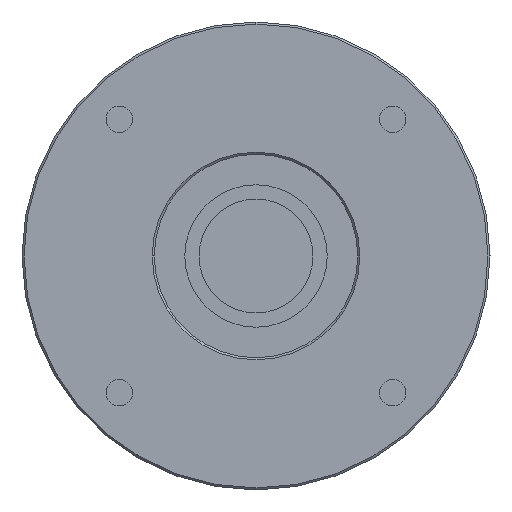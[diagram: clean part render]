
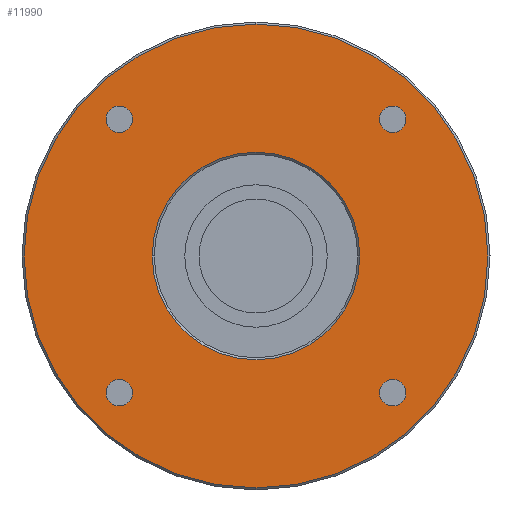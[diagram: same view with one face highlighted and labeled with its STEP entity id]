
A CAD part, left-side view. The second image highlights one B-rep face of the part: STEP entity #11990.
In plain terms, the highlighted planar face has unit normal (-1, 0, 0) as drawn and (0, 0, -1) by its records, which use the part's own axes.
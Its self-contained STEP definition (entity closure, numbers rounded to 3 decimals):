
#8800=CARTESIAN_POINT('',(-30.338,-33.588,-65.6));
#8810=VERTEX_POINT('',#8800);
#8840=CARTESIAN_POINT('',(-33.588,-33.588,-65.6));
#8850=DIRECTION('',(0.,0.,-1.));
#8860=DIRECTION('',(1.,0.,0.));
#8870=AXIS2_PLACEMENT_3D('',#8840,#8850,#8860);
#8880=CIRCLE('',#8870,3.25);
#8890=CARTESIAN_POINT('',(-36.838,-33.588,-65.6));
#8900=VERTEX_POINT('',#8890);
#8910=EDGE_CURVE('',#8900,#8810,#8880,.T.);
#9220=CARTESIAN_POINT('',(36.838,33.588,-65.6));
#9230=VERTEX_POINT('',#9220);
#9260=CARTESIAN_POINT('',(33.588,33.588,-65.6));
#9270=DIRECTION('',(0.,0.,-1.));
#9280=DIRECTION('',(1.,0.,0.));
#9290=AXIS2_PLACEMENT_3D('',#9260,#9270,#9280);
#9300=CIRCLE('',#9290,3.25);
#9310=CARTESIAN_POINT('',(30.338,33.588,-65.6));
#9320=VERTEX_POINT('',#9310);
#9330=EDGE_CURVE('',#9320,#9230,#9300,.T.);
#11060=CARTESIAN_POINT('',(0.,57.,-65.6));
#11070=VERTEX_POINT('',#11060);
#11100=CARTESIAN_POINT('',(0.,0.,
-65.6));
#11110=DIRECTION('',(0.,0.,-1.));
#11120=DIRECTION('',(1.,0.,0.));
#11130=AXIS2_PLACEMENT_3D('',#11100,#11110,#11120);
#11140=CIRCLE('',#11130,57.);
#11150=CARTESIAN_POINT('',(57.,0.,-65.6));
#11160=VERTEX_POINT('',#11150);
#11170=EDGE_CURVE('',#11070,#11160,#11140,.T.);
#11190=CARTESIAN_POINT('',(0.,-57.,-65.6));
#11200=VERTEX_POINT('',#11190);
#11210=EDGE_CURVE('',#11160,#11200,#11140,.T.);
#11330=CARTESIAN_POINT('',(0.,0.,
-65.6));
#11340=DIRECTION('',(0.,0.,-1.));
#11350=DIRECTION('',(1.,0.,0.));
#11360=AXIS2_PLACEMENT_3D('',#11330,#11340,#11350);
#11370=PLANE('',#11360);
#11380=EDGE_CURVE('',#11200,#11070,#11140,.T.);
#11390=ORIENTED_EDGE('',*,*,#11380,.T.);
#11400=ORIENTED_EDGE('',*,*,#11210,.T.);
#11410=ORIENTED_EDGE('',*,*,#11170,.T.);
#11420=EDGE_LOOP('',(#11410,#11400,#11390));
#11430=FACE_OUTER_BOUND('',#11420,.T.);
#11440=CARTESIAN_POINT('',(0.,0.,
-65.6));
#11450=DIRECTION('',(0.,0.,-1.));
#11460=DIRECTION('',(1.,0.,0.));
#11470=AXIS2_PLACEMENT_3D('',#11440,#11450,#11460);
#11480=CIRCLE('',#11470,25.5);
#11490=CARTESIAN_POINT('',(25.5,0.,-65.6));
#11500=VERTEX_POINT('',#11490);
#11510=CARTESIAN_POINT('',(-25.5,0.,-65.6));
#11520=VERTEX_POINT('',#11510);
#11530=EDGE_CURVE('',#11500,#11520,#11480,.T.);
#11540=ORIENTED_EDGE('',*,*,#11530,.F.);
#11550=EDGE_CURVE('',#11520,#11500,#11480,.T.);
#11560=ORIENTED_EDGE('',*,*,#11550,.F.);
#11570=EDGE_LOOP('',(#11560,#11540));
#11580=FACE_BOUND('',#11570,.T.);
#11590=CARTESIAN_POINT('',(33.588,-33.588,-65.6));
#11600=DIRECTION('',(0.,0.,-1.));
#11610=DIRECTION('',(1.,0.,0.));
#11620=AXIS2_PLACEMENT_3D('',#11590,#11600,#11610);
#11630=CIRCLE('',#11620,3.25);
#11640=CARTESIAN_POINT('',(36.838,-33.588,-65.6));
#11650=VERTEX_POINT('',#11640);
#11660=CARTESIAN_POINT('',(30.338,-33.588,-65.6));
#11670=VERTEX_POINT('',#11660);
#11680=EDGE_CURVE('',#11650,#11670,#11630,.T.);
#11690=ORIENTED_EDGE('',*,*,#11680,.F.);
#11700=EDGE_CURVE('',#11670,#11650,#11630,.T.);
#11710=ORIENTED_EDGE('',*,*,#11700,.F.);
#11720=EDGE_LOOP('',(#11710,#11690));
#11730=FACE_BOUND('',#11720,.T.);
#11740=EDGE_CURVE('',#9230,#9320,#9300,.T.);
#11750=ORIENTED_EDGE('',*,*,#11740,.F.);
#11760=ORIENTED_EDGE('',*,*,#9330,.F.);
#11770=EDGE_LOOP('',(#11760,#11750));
#11780=FACE_BOUND('',#11770,.T.);
#11790=CARTESIAN_POINT('',(-33.588,33.588,-65.6));
#11800=DIRECTION('',(0.,0.,-1.));
#11810=DIRECTION('',(1.,0.,0.));
#11820=AXIS2_PLACEMENT_3D('',#11790,#11800,#11810);
#11830=CIRCLE('',#11820,3.25);
#11840=CARTESIAN_POINT('',(-30.338,33.588,-65.6));
#11850=VERTEX_POINT('',#11840);
#11860=CARTESIAN_POINT('',(-36.838,33.588,-65.6));
#11870=VERTEX_POINT('',#11860);
#11880=EDGE_CURVE('',#11850,#11870,#11830,.T.);
#11890=ORIENTED_EDGE('',*,*,#11880,.F.);
#11900=EDGE_CURVE('',#11870,#11850,#11830,.T.);
#11910=ORIENTED_EDGE('',*,*,#11900,.F.);
#11920=EDGE_LOOP('',(#11910,#11890));
#11930=FACE_BOUND('',#11920,.T.);
#11940=EDGE_CURVE('',#8810,#8900,#8880,.T.);
#11950=ORIENTED_EDGE('',*,*,#11940,.F.);
#11960=ORIENTED_EDGE('',*,*,#8910,.F.);
#11970=EDGE_LOOP('',(#11960,#11950));
#11980=FACE_BOUND('',#11970,.T.);
#11990=ADVANCED_FACE('',(#11430,#11580,#11730,#11780,#11930,#11980),
#11370,.T.);
